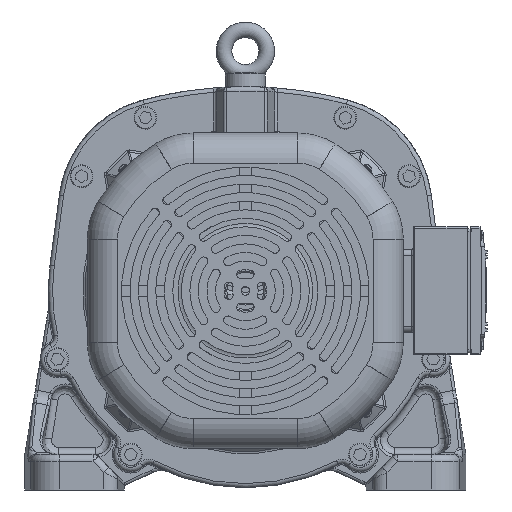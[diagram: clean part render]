
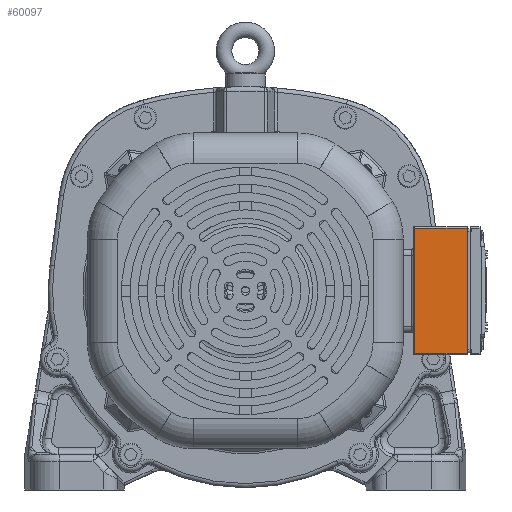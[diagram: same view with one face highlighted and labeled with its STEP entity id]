
A CAD part, front view. The second image highlights one B-rep face of the part: STEP entity #60097.
In plain terms, the highlighted planar face has unit normal (0, -1, 0).
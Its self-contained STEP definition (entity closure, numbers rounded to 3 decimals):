
#2172=PLANE('',#65875);
#6263=LINE('',#133282,#9175);
#6421=LINE('',#133748,#9333);
#6422=LINE('',#133753,#9334);
#6439=LINE('',#133817,#9351);
#9175=VECTOR('',#78618,10.);
#9333=VECTOR('',#79066,10.);
#9334=VECTOR('',#79071,10.);
#9351=VECTOR('',#79144,10.);
#14074=FACE_OUTER_BOUND('',#17729,.T.);
#17729=EDGE_LOOP('',(#49719,#49720,#49721,#49722));
#26190=VERTEX_POINT('',#133279);
#26191=VERTEX_POINT('',#133281);
#26354=VERTEX_POINT('',#133746);
#26355=VERTEX_POINT('',#133750);
#34062=EDGE_CURVE('',#26191,#26190,#6263,.T.);
#34294=EDGE_CURVE('',#26191,#26354,#6421,.T.);
#34296=EDGE_CURVE('',#26355,#26190,#6422,.T.);
#34329=EDGE_CURVE('',#26354,#26355,#6439,.T.);
#49719=ORIENTED_EDGE('',*,*,#34329,.F.);
#49720=ORIENTED_EDGE('',*,*,#34294,.F.);
#49721=ORIENTED_EDGE('',*,*,#34062,.T.);
#49722=ORIENTED_EDGE('',*,*,#34296,.F.);
#60097=ADVANCED_FACE('',(#14074),#2172,.T.);
#65875=AXIS2_PLACEMENT_3D('',#133970,#79326,#79327);
#78618=DIRECTION('',(0.,0.,1.));
#79066=DIRECTION('',(-1.,0.,0.));
#79071=DIRECTION('',(1.,0.,0.));
#79144=DIRECTION('',(0.,0.,1.));
#79326=DIRECTION('center_axis',(0.,-1.,0.));
#79327=DIRECTION('ref_axis',(1.,0.,0.));
#133279=CARTESIAN_POINT('',(143.309,-298.258,42.25));
#133281=CARTESIAN_POINT('',(143.309,-298.258,-45.75));
#133282=CARTESIAN_POINT('',(143.309,-298.258,43.25));
#133746=CARTESIAN_POINT('',(106.309,-298.258,-45.75));
#133748=CARTESIAN_POINT('',(105.309,-298.258,-45.75));
#133750=CARTESIAN_POINT('',(106.309,-298.258,42.25));
#133753=CARTESIAN_POINT('',(105.309,-298.258,42.25));
#133817=CARTESIAN_POINT('',(106.309,-298.258,-24.25));
#133970=CARTESIAN_POINT('Origin',(105.309,-298.258,-46.75));
